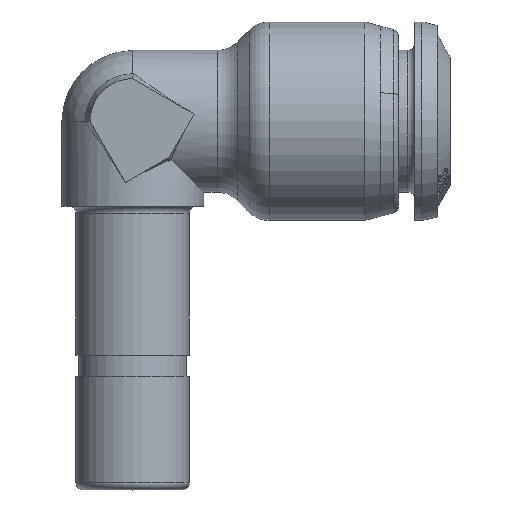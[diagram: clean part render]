
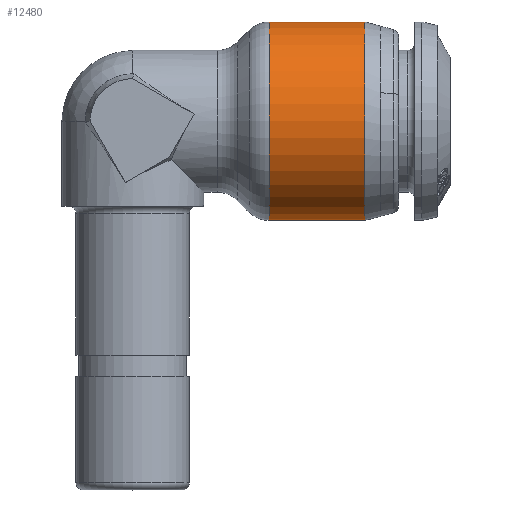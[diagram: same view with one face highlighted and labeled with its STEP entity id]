
A CAD part, top view. The second image highlights one B-rep face of the part: STEP entity #12480.
In plain terms, the highlighted cylindrical face has radius 7 mm (diameter 14 mm), a partial arc.
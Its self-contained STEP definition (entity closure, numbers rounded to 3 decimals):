
#55 = EDGE_CURVE ( 'Defeature completata1_3+Defeature completata1_4+Defeature completata1_4+Defeature completata1_4', #3396, #11114, #10731, .T. ) ;
#401 = VECTOR ( 'NONE', #10886, 1000. ) ;
#627 = AXIS2_PLACEMENT_3D ( 'NONE', #1811, #9477, #3764 ) ;
#1811 = CARTESIAN_POINT ( 'NONE',  ( 17.5, 0., 0. ) ) ;
#2164 = EDGE_LOOP ( 'NONE', ( #5748, #12120, #7077, #7400 ) ) ;
#3018 = CIRCLE ( 'NONE', #9908, 7. ) ;
#3205 = CARTESIAN_POINT ( 'NONE',  ( 9.628, -7., 0. ) ) ;
#3209 = LINE ( 'NONE', #10468, #7996 ) ;
#3396 = VERTEX_POINT ( 'NONE', #9015 ) ;
#3764 = DIRECTION ( 'NONE',  ( 0., 1., 0. ) ) ;
#3784 = DIRECTION ( 'NONE',  ( 1., 0., 0. ) ) ;
#3811 = DIRECTION ( 'NONE',  ( 1., 0., 0. ) ) ;
#4234 = CARTESIAN_POINT ( 'NONE',  ( 17.5, 7., 0. ) ) ;
#5304 = DIRECTION ( 'NONE',  ( 1., 0., 0. ) ) ;
#5305 = EDGE_CURVE ( 'NONE', #10473, #11114, #3209, .T. ) ;
#5748 = ORIENTED_EDGE ( 'NONE', *, *, #12319, .T. ) ;
#6353 = VERTEX_POINT ( 'NONE', #10915 ) ;
#6494 = DIRECTION ( 'NONE',  ( 0., 1., 0. ) ) ;
#6814 = CARTESIAN_POINT ( 'NONE',  ( 16.38, -7., 0. ) ) ;
#6911 = CYLINDRICAL_SURFACE ( 'NONE', #627, 7. ) ;
#6966 = CARTESIAN_POINT ( 'NONE',  ( 16.38, 0., 0. ) ) ;
#7077 = ORIENTED_EDGE ( 'NONE', *, *, #55, .F. ) ;
#7400 = ORIENTED_EDGE ( 'NONE', *, *, #8727, .F. ) ;
#7996 = VECTOR ( 'NONE', #3811, 1000. ) ;
#8130 = LINE ( 'NONE', #4234, #401 ) ;
#8727 = EDGE_CURVE ( 'NONE', #6353, #3396, #8130, .T. ) ;
#9015 = CARTESIAN_POINT ( 'NONE',  ( 16.38, 7., 0. ) ) ;
#9477 = DIRECTION ( 'NONE',  ( 1., 0., 0. ) ) ;
#9908 = AXIS2_PLACEMENT_3D ( 'NONE', #10974, #5304, #11951 ) ;
#10027 = FACE_OUTER_BOUND ( 'NONE', #2164, .T. ) ;
#10468 = CARTESIAN_POINT ( 'NONE',  ( 17.5, -7., 0. ) ) ;
#10473 = VERTEX_POINT ( 'NONE', #3205 ) ;
#10731 = CIRCLE ( 'NONE', #11340, 7. ) ;
#10886 = DIRECTION ( 'NONE',  ( 1., 0., 0. ) ) ;
#10915 = CARTESIAN_POINT ( 'NONE',  ( 9.628, 7., 0. ) ) ;
#10974 = CARTESIAN_POINT ( 'NONE',  ( 9.628, 0., 0. ) ) ;
#11114 = VERTEX_POINT ( 'NONE', #6814 ) ;
#11340 = AXIS2_PLACEMENT_3D ( 'NONE', #6966, #3784, #6494 ) ;
#11951 = DIRECTION ( 'NONE',  ( 0., 1., 0. ) ) ;
#12120 = ORIENTED_EDGE ( 'NONE', *, *, #5305, .T. ) ;
#12319 = EDGE_CURVE ( 'Defeature completata1_4+Defeature completata1_5+Defeature completata1_5+Defeature completata1_5', #6353, #10473, #3018, .T. ) ;
#12480 = ADVANCED_FACE ( 'Defeature completata1_4', ( #10027 ), #6911, .T. ) ;
